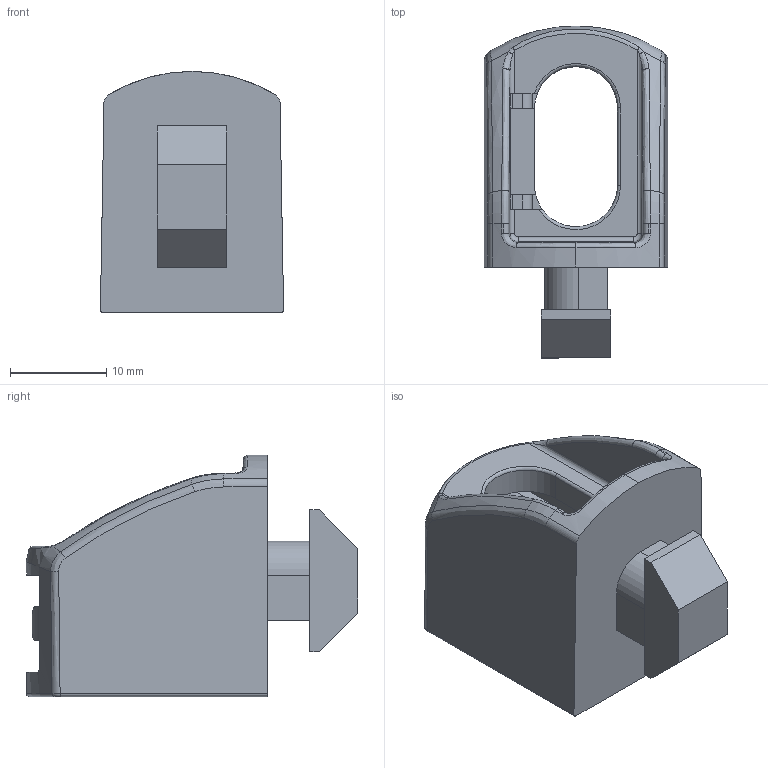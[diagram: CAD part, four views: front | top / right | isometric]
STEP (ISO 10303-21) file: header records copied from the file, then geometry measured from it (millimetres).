
FILE_DESCRIPTION (( 'STEP AP214' ), '1' );
FILE_NAME ('6.04.spqb22.STEP', '2015-06-04T12:58:07', ( '' ), ( '' ), 'SwSTEP 2.0', 'SolidWorks 2015', '' );
FILE_SCHEMA (( 'AUTOMOTIVE_DESIGN' ));
Length unit declared in the file: millimetre
Products named in the file (1): 6.04.spqb22
Bounding box: 18.99 x 34.4 x 25 mm (x, y, z)
Volume: 5034.2 mm3; surface area: 4115.7 mm2
Topology: 1 solids, 1 shells, 124 faces, 317 edges, 198 vertices
Faces by surface type: plane 49, cylinder 37, bspline 26, torus 10, cone 2
Entity records: 4792 total; most frequent: CARTESIAN_POINT 1898, ORIENTED_EDGE 634, DIRECTION 553, EDGE_CURVE 317, AXIS2_PLACEMENT_3D 198, VERTEX_POINT 198, LINE 157, VECTOR 157
